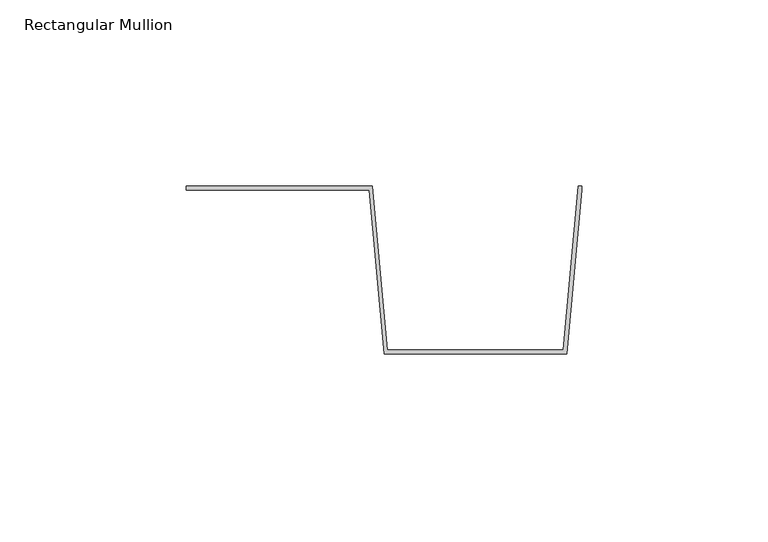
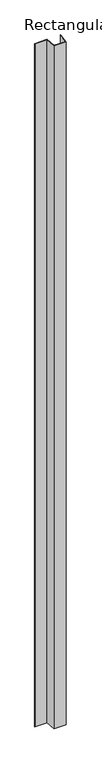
"""IFC4 building model written with IfcOpenShell, lengths in millimetres: member geometry, Rectangular Mullion : CD_NINELINE_Batten Intermediate."""

from ifc_helpers import new_model, si_unit, frame, origin, place, context, project, spatial, polyline, outline, extrude, source, transform, mapped, element, save


def rectangular_mullion_1d10df30(model_context):
    return source(origin(), model_context, "Body", "SweptSolid", [
        extrude(outline(polyline([(0.0, 0.0), (49.9132146, 0.0), (53.9132146, -44.0), (101.0867854, -44.0), (105.0867854, 0.0), (106.0, 0.0), (106.0, -1.0), (102.0, -45.0), (53.0, -45.0), (49.0, -1.0), (0.0, -1.0), (0.0, 0.0)])), frame((0.0, 0.0, -2942.0), z_axis=(0.0, 0.0, 1.0), x_axis=(1.0, 0.0, 0.0)), (0.0, 0.0, 1.0), 2942.0),
    ])


if __name__ == "__main__":
    model = new_model("IFC4")
    model_context = context("Model", 3, world=origin())
    ifc_project = project(units=[si_unit("LENGTHUNIT", "METRE", prefix="MILLI")], contexts=[model_context])
    site = spatial("IfcSite", under=ifc_project)
    building = spatial("IfcBuilding", under=site)
    placement = place(None, origin())
    rectangular_mullion_shape = rectangular_mullion_1d10df30(model_context)
    element("IfcMember", 1, ObjectType="Rectangular Mullion : CD_NINELINE_Batten Intermediate", at=placement, inside=building, context=model_context, shape_type="MappedRepresentation", body=[
        mapped(rectangular_mullion_shape, transform((0.0, 0.0, 0.0), x_axis=(1.0, 0.0, 0.0), y_axis=(0.0, 1.0, 0.0), z_axis=(0.0, 0.0, 1.0))),
    ])
    save(model, "model.ifc")
